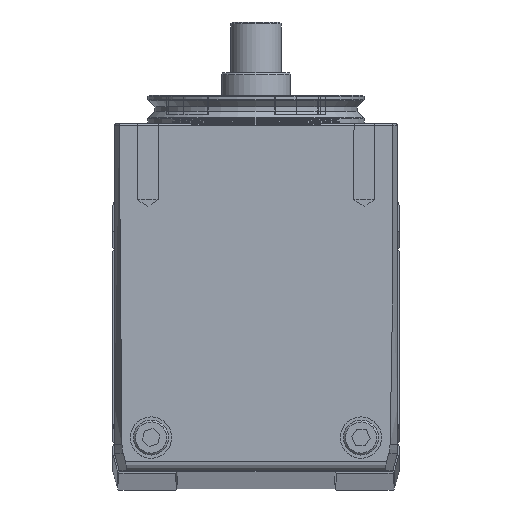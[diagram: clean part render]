
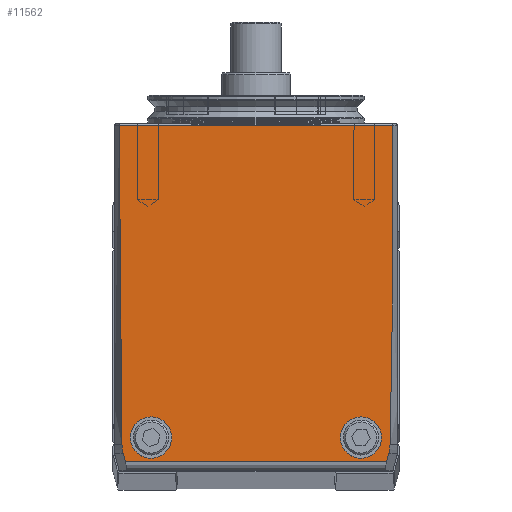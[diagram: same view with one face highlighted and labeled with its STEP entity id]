
A CAD part, top view. The second image highlights one B-rep face of the part: STEP entity #11562.
In plain terms, the highlighted planar face has unit normal (0, 0, 1) as drawn and (0, 1, 0) by its records, which use the part's own axes.
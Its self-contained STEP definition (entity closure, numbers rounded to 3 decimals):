
#116=B_SPLINE_CURVE_WITH_KNOTS('',3,(#24212,#24213,#24214,#24215),
 .UNSPECIFIED.,.F.,.F.,(4,4),(0.,0.001),.UNSPECIFIED.);
#117=B_SPLINE_CURVE_WITH_KNOTS('',3,(#24217,#24218,#24219,#24220,#24221,
#24222,#24223,#24224,#24225,#24226,#24227,#24228),.UNSPECIFIED.,.F.,.F.,
(4,1,1,1,1,1,1,1,1,4),(0.,0.003,0.006,0.008,
0.009,0.013,0.019,0.025,
0.038,0.05),.UNSPECIFIED.);
#118=B_SPLINE_CURVE_WITH_KNOTS('',3,(#24229,#24230,#24231,#24232,#24233,
#24234,#24235,#24236,#24237,#24238,#24239,#24240),.UNSPECIFIED.,.F.,.F.,
(4,1,1,1,1,1,1,1,1,4),(0.,0.013,0.025,0.031,
0.038,0.041,0.042,0.044,
0.047,0.05),.UNSPECIFIED.);
#119=B_SPLINE_CURVE_WITH_KNOTS('',3,(#24242,#24243,#24244,#24245),
 .UNSPECIFIED.,.F.,.F.,(4,4),(0.,0.001),.UNSPECIFIED.);
#928=CIRCLE('',#17014,3.25);
#929=CIRCLE('',#17015,3.25);
#3544=ORIENTED_EDGE('',*,*,#5564,.T.);
#3545=ORIENTED_EDGE('',*,*,#5565,.T.);
#3546=ORIENTED_EDGE('',*,*,#5566,.T.);
#3547=ORIENTED_EDGE('',*,*,#5567,.T.);
#3548=ORIENTED_EDGE('',*,*,#5568,.T.);
#3549=ORIENTED_EDGE('',*,*,#5569,.T.);
#3550=ORIENTED_EDGE('',*,*,#5555,.F.);
#3551=ORIENTED_EDGE('',*,*,#5570,.T.);
#3552=ORIENTED_EDGE('',*,*,#5571,.T.);
#3553=ORIENTED_EDGE('',*,*,#5572,.T.);
#5555=EDGE_CURVE('',#6795,#6796,#7768,.T.);
#5564=EDGE_CURVE('',#6803,#6803,#928,.T.);
#5565=EDGE_CURVE('',#6804,#6804,#929,.T.);
#5566=EDGE_CURVE('',#6805,#6806,#7775,.T.);
#5567=EDGE_CURVE('',#6806,#6807,#7776,.T.);
#5568=EDGE_CURVE('',#6807,#6808,#116,.T.);
#5569=EDGE_CURVE('',#6808,#6796,#117,.T.);
#5570=EDGE_CURVE('',#6795,#6809,#118,.T.);
#5571=EDGE_CURVE('',#6809,#6810,#119,.T.);
#5572=EDGE_CURVE('',#6810,#6805,#7777,.T.);
#6795=VERTEX_POINT('',#24185);
#6796=VERTEX_POINT('',#24186);
#6803=VERTEX_POINT('',#24204);
#6804=VERTEX_POINT('',#24206);
#6805=VERTEX_POINT('',#24208);
#6806=VERTEX_POINT('',#24209);
#6807=VERTEX_POINT('',#24211);
#6808=VERTEX_POINT('',#24216);
#6809=VERTEX_POINT('',#24241);
#6810=VERTEX_POINT('',#24246);
#7768=LINE('',#24184,#8720);
#7775=LINE('',#24207,#8727);
#7776=LINE('',#24210,#8728);
#7777=LINE('',#24247,#8729);
#8720=VECTOR('',#19945,1000.);
#8727=VECTOR('',#19964,1000.);
#8728=VECTOR('',#19965,1000.);
#8729=VECTOR('',#19966,1000.);
#9552=EDGE_LOOP('',(#3544));
#9553=EDGE_LOOP('',(#3545));
#9554=EDGE_LOOP('',(#3546,#3547,#3548,#3549,#3550,#3551,#3552,#3553));
#10466=FACE_BOUND('',#9552,.T.);
#10467=FACE_BOUND('',#9553,.T.);
#10468=FACE_BOUND('',#9554,.T.);
#10976=PLANE('',#17013);
#11562=ADVANCED_FACE('',(#10466,#10467,#10468),#10976,.F.);
#17013=AXIS2_PLACEMENT_3D('',#24202,#19958,#19959);
#17014=AXIS2_PLACEMENT_3D('',#24203,#19960,#19961);
#17015=AXIS2_PLACEMENT_3D('',#24205,#19962,#19963);
#19945=DIRECTION('',(0.,0.,-1.));
#19958=DIRECTION('',(0.,-1.,0.));
#19959=DIRECTION('',(0.,0.,-1.));
#19960=DIRECTION('',(0.,-1.,0.));
#19961=DIRECTION('',(0.,0.,-1.));
#19962=DIRECTION('',(0.,-1.,0.));
#19963=DIRECTION('',(0.,0.,-1.));
#19964=DIRECTION('',(0.,0.,-1.));
#19965=DIRECTION('',(-0.966,0.,-0.259));
#19966=DIRECTION('',(0.966,0.,-0.259));
#24184=CARTESIAN_POINT('',(0.3,22.25,22.25));
#24185=CARTESIAN_POINT('',(0.3,22.25,21.5));
#24186=CARTESIAN_POINT('',(0.3,22.25,-21.5));
#24202=CARTESIAN_POINT('',(54.6,22.25,-21.5));
#24203=CARTESIAN_POINT('',(49.35,22.25,16.5));
#24204=CARTESIAN_POINT('',(49.35,22.25,13.25));
#24205=CARTESIAN_POINT('',(49.35,22.25,-16.5));
#24206=CARTESIAN_POINT('',(49.35,22.25,-19.75));
#24207=CARTESIAN_POINT('',(53.1,22.25,22.25));
#24208=CARTESIAN_POINT('',(53.1,22.25,20.526));
#24209=CARTESIAN_POINT('',(53.1,22.25,-20.526));
#24210=CARTESIAN_POINT('',(54.256,22.25,-20.216));
#24211=CARTESIAN_POINT('',(51.801,22.25,-20.874));
#24212=CARTESIAN_POINT('',(51.802,22.25,-20.875));
#24213=CARTESIAN_POINT('',(51.349,22.25,-20.994));
#24214=CARTESIAN_POINT('',(50.883,22.25,-21.051));
#24215=CARTESIAN_POINT('',(50.416,22.25,-21.082));
#24216=CARTESIAN_POINT('',(50.416,22.25,-21.082));
#24217=CARTESIAN_POINT('',(50.416,22.25,-21.082));
#24218=CARTESIAN_POINT('',(49.374,22.25,-21.157));
#24219=CARTESIAN_POINT('',(47.29,22.25,-21.295));
#24220=CARTESIAN_POINT('',(44.687,22.25,-21.525));
#24221=CARTESIAN_POINT('',(42.597,22.25,-21.495));
#24222=CARTESIAN_POINT('',(40.508,22.25,-21.502));
#24223=CARTESIAN_POINT('',(36.853,22.25,-21.498));
#24224=CARTESIAN_POINT('',(31.631,22.25,-21.5));
#24225=CARTESIAN_POINT('',(23.276,22.25,-21.499));
#24226=CARTESIAN_POINT('',(12.832,22.25,-21.5));
#24227=CARTESIAN_POINT('',(4.477,22.25,-21.5));
#24228=CARTESIAN_POINT('',(0.3,22.25,-21.5));
#24229=CARTESIAN_POINT('',(0.3,22.25,21.5));
#24230=CARTESIAN_POINT('',(4.477,22.25,21.5));
#24231=CARTESIAN_POINT('',(12.831,22.25,21.5));
#24232=CARTESIAN_POINT('',(23.273,22.25,21.499));
#24233=CARTESIAN_POINT('',(31.627,22.25,21.5));
#24234=CARTESIAN_POINT('',(36.848,22.25,21.498));
#24235=CARTESIAN_POINT('',(40.503,22.25,21.502));
#24236=CARTESIAN_POINT('',(42.591,22.25,21.495));
#24237=CARTESIAN_POINT('',(44.68,22.25,21.525));
#24238=CARTESIAN_POINT('',(47.287,22.25,21.296));
#24239=CARTESIAN_POINT('',(49.373,22.25,21.157));
#24240=CARTESIAN_POINT('',(50.416,22.25,21.082));
#24241=CARTESIAN_POINT('',(50.416,22.25,21.082));
#24242=CARTESIAN_POINT('',(50.416,22.25,21.082));
#24243=CARTESIAN_POINT('',(50.883,22.25,21.051));
#24244=CARTESIAN_POINT('',(51.349,22.25,20.994));
#24245=CARTESIAN_POINT('',(51.802,22.25,20.875));
#24246=CARTESIAN_POINT('',(51.801,22.25,20.874));
#24247=CARTESIAN_POINT('',(64.999,22.25,17.34));
